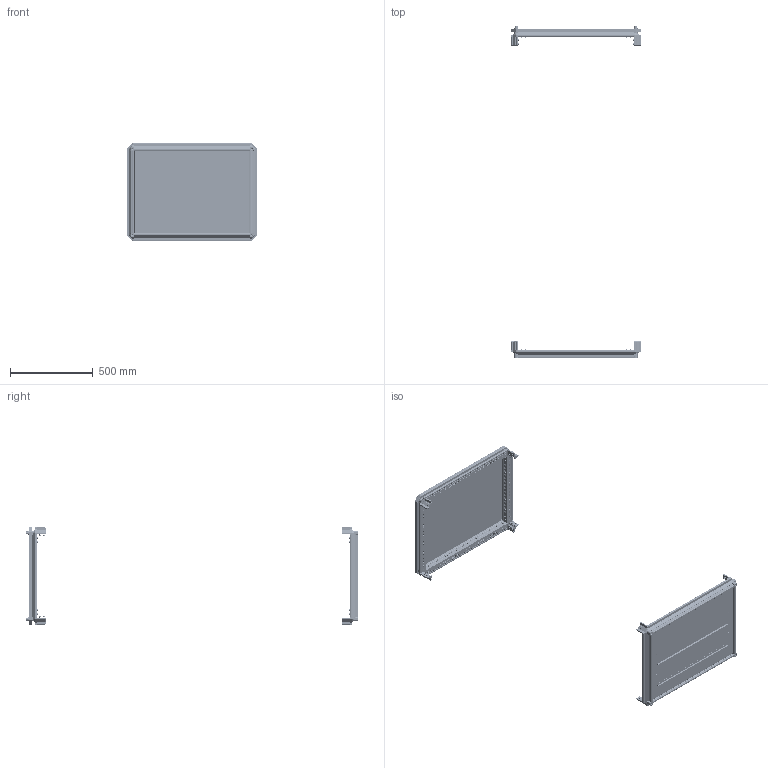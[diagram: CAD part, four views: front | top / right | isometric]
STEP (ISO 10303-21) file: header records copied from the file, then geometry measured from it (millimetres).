
FILE_DESCRIPTION (( 'STEP AP203' ), '1' );
FILE_NAME ('MA1.101.080620.00.00 AleSta-RB86 Êîìïëåêò êðûøà è îñíîâàíèå.STEP', '2025-02-19T14:00:00', ( '' ), ( '' ), 'SwSTEP 2.0', 'SolidWorks 2021', '' );
FILE_SCHEMA (( 'CONFIG_CONTROL_DESIGN' ));
Length unit declared in the file: millimetre
Products named in the file (19): MA1.101.060620.20.00 Íèæíÿÿ ïàíåëü 600õ600_800å600; MA1.101.060620.20.01 Ïîëîòíî íèæíåé ïàíåëè 600õ600_800å600; Âèíò_ðåçüáîâûäàâëèâàþùèé_Ì5õ12_DIN 7500E_Œ5å12; 7380-2 ISO Âèíòû ñ ïîëóêðóãëîé ãîëîâêîé ñ ôëàíöåì ñ âíóòðåííèì øåñòèãðàííèêîì Ì4õ10; Óïëîòíèòåëü ïàíåëè íèæíåé_800å600; ﾘ琺矜 65ﾃ 019 ﾃﾎﾑﾒ 6402-70_12; MA1.101.060620.10.00 Êðûøà 600x600_800å600; MA1.101.060620.20.02 Çàêðûòèå íèæíåé ïàíåëè 600õ600_800å600; Øïèëüêà Ì6õ12_˜¯¨«ìª  Œ6å12; MA1.100.060620.00.01 Ñîåäèíèòåëü óãëîâîé_00; ﾘ琺矜 01.019 ﾃﾎﾑﾒ11371-78_12; Âèíò ñ âí. øåñòèãðàííèêîì M12 DIN912_•30; MA1.101.060620.00.02 Ïðîôèëü ïîïåðå÷íûé ñâàðíîé_02 L=698 (˜=800) ; MA1.101.060620.10.01 Ïîëîòíî êðûøè 600õ600_800x600; ﾇﾀﾊﾋﾅﾏﾊﾀ ﾃﾀﾅﾗﾍﾀﾟ ﾘﾅﾑﾒﾈﾃﾐﾀﾍﾍﾀﾟ ﾑ ﾓﾌﾅﾍﾜﾘﾅﾍﾍﾛﾌ ﾁﾎﾐﾒﾎﾌ M4 X 11 (0.5-2.5 ﾌﾌ) HEX U-S ﾖﾈﾍﾊ; MA1.101.060620.00.02 Ïðîôèëü ïîïåðå÷íûé ñâàðíîé_01 L=498 (˜=600); Øàéáà ñòîïîðíàÿ ñ íàðóæíûìè çóáöàìè SCHNORR, òèï VS öèíêîâûå õëîïüÿ Ì6 O6,4 ART 88121_Œ6; Âèíò ðåçüáîâûäàâëèâàþùèé Ì6õ12 DIN 7500E_Œ6å10; MA1.101.080620.00.00 AleSta-RB86 Êîìïëåêò êðûøà è îñíîâàíèå
Assembly tree (215 placements, depth 3):
  MA1.101.080620.00.00 AleSta-RB86 Êîìïëåêò êðûøà è îñíîâàíèå
    MA1.101.060620.00.02 Ïðîôèëü ïîïåðå÷íûé ñâàðíîé_02 L=698 (˜=800)   x4
    MA1.101.060620.00.02 Ïðîôèëü ïîïåðå÷íûé ñâàðíîé_01 L=498 (˜=600)  x4
    MA1.101.060620.10.00 Êðûøà 600x600_800å600
      MA1.101.060620.10.01 Ïîëîòíî êðûøè 600õ600_800x600
      Øïèëüêà Ì6õ12_˜¯¨«ìª  Œ6å12  x4
      Óïëîòíèòåëü ïàíåëè íèæíåé_800å600
    MA1.101.060620.20.00 Íèæíÿÿ ïàíåëü 600õ600_800å600
      MA1.101.060620.20.01 Ïîëîòíî íèæíåé ïàíåëè 600õ600_800å600
      ﾇﾀﾊﾋﾅﾏﾊﾀ ﾃﾀﾅﾗﾍﾀﾟ ﾘﾅﾑﾒﾈﾃﾐﾀﾍﾍﾀﾟ ﾑ ﾓﾌﾅﾍﾜﾘﾅﾍﾍﾛﾌ ﾁﾎﾐﾒﾎﾌ M4 X 11 (0.5-2.5 ﾌﾌ) HEX U-S ﾖﾈﾍﾊ  x4
      MA1.101.060620.20.02 Çàêðûòèå íèæíåé ïàíåëè 600õ600_800å600  x2
      7380-2 ISO Âèíòû ñ ïîëóêðóãëîé ãîëîâêîé ñ ôëàíöåì ñ âíóòðåííèì øåñòèãðàííèêîì Ì4õ10  x4
    Âèíò_ðåçüáîâûäàâëèâàþùèé_Ì5õ12_DIN 7500E_Œ5å12  x8
    MA1.100.060620.00.01 Ñîåäèíèòåëü óãëîâîé_00  x8
    Âèíò ñ âí. øåñòèãðàííèêîì M12 DIN912_•30  x4
    Âèíò ðåçüáîâûäàâëèâàþùèé Ì6õ12 DIN 7500E_Œ6å10  x80
    ﾘ琺矜 01.019 ﾃﾎﾑﾒ11371-78_12  x4
    ﾘ琺矜 65ﾃ 019 ﾃﾎﾑﾒ 6402-70_12  x4
    Øàéáà ñòîïîðíàÿ ñ íàðóæíûìè çóáöàìè SCHNORR, òèï VS öèíêîâûå õëîïüÿ Ì6 O6,4 ART 88121_Œ6  x80
Bounding box: 792 x 2010.9 x 592 mm (x, y, z)
Volume: 3667807.4 mm3; surface area: 3926909.6 mm2
Topology: 213 solids, 213 shells, 12198 faces, 31720 edges, 19952 vertices
Faces by surface type: plane 8926, cylinder 2456, cone 520, bspline 248, torus 48
Entity records: 64776 total; most frequent: CARTESIAN_POINT 13339, DIRECTION 9058, ORIENTED_EDGE 8958, EDGE_CURVE 4479, LINE 3330, VECTOR 3330, AXIS2_PLACEMENT_3D 2864, VERTEX_POINT 2743
